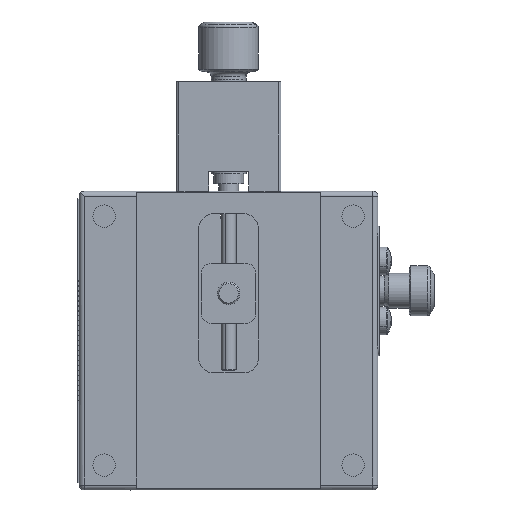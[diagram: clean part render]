
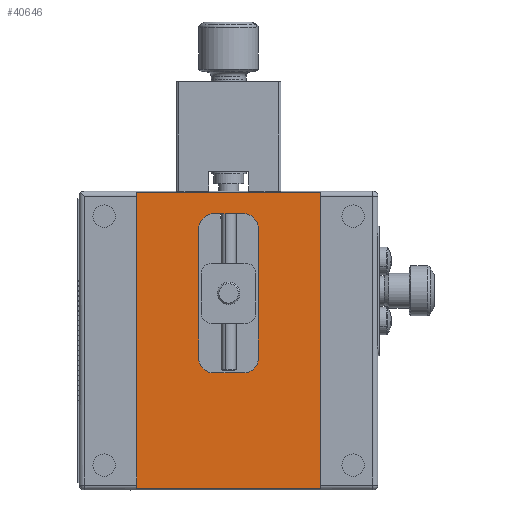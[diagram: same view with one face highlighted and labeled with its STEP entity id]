
A CAD part, front view. The second image highlights one B-rep face of the part: STEP entity #40646.
In plain terms, the highlighted planar face has unit normal (0, -1, 0).
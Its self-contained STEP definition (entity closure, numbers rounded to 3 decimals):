
#342 = CIRCLE ( 'NONE', #7325, 3. ) ;
#717 = CARTESIAN_POINT ( 'NONE',  ( 3., 0.3, 25.5 ) ) ;
#2132 = EDGE_CURVE ( 'NONE', #42089, #2435, #24652, .T. ) ;
#2435 = VERTEX_POINT ( 'NONE', #11047 ) ;
#2785 = CIRCLE ( 'NONE', #39567, 3. ) ;
#3401 = VERTEX_POINT ( 'NONE', #42655 ) ;
#7124 = CARTESIAN_POINT ( 'NONE',  ( -6., 0.3, 25.5 ) ) ;
#7202 = CARTESIAN_POINT ( 'NONE',  ( -18.5, 0.3, -29.714 ) ) ;
#7299 = VERTEX_POINT ( 'NONE', #40783 ) ;
#7325 = AXIS2_PLACEMENT_3D ( 'NONE', #19069, #49860, #23496 ) ;
#8035 = FACE_OUTER_BOUND ( 'NONE', #45988, .T. ) ;
#8214 = VECTOR ( 'NONE', #42401, 1000. ) ;
#8337 = DIRECTION ( 'NONE',  ( 0., 1., 0. ) ) ;
#8506 = CIRCLE ( 'NONE', #47588, 3. ) ;
#8952 = VECTOR ( 'NONE', #36361, 1000. ) ;
#10211 = EDGE_CURVE ( 'NONE', #28825, #38370, #20726, .T. ) ;
#10951 = EDGE_CURVE ( 'NONE', #20859, #39344, #17923, .T. ) ;
#11032 = CARTESIAN_POINT ( 'NONE',  ( -6., 0.3, -3.5 ) ) ;
#11047 = CARTESIAN_POINT ( 'NONE',  ( 6., 0.3, -3.5 ) ) ;
#11686 = DIRECTION ( 'NONE',  ( 1., 0., 0. ) ) ;
#12257 = DIRECTION ( 'NONE',  ( -1., 0., 0. ) ) ;
#12697 = DIRECTION ( 'NONE',  ( 0., 1., 0. ) ) ;
#13793 = CARTESIAN_POINT ( 'NONE',  ( -18.5, 0.3, -29.714 ) ) ;
#13976 = LINE ( 'NONE', #54299, #34624 ) ;
#14603 = CARTESIAN_POINT ( 'NONE',  ( 18.5, 0.3, 29.714 ) ) ;
#16588 = CARTESIAN_POINT ( 'NONE',  ( -6., 0.3, -6.5 ) ) ;
#17586 = DIRECTION ( 'NONE',  ( 0., 1., 0. ) ) ;
#17898 = AXIS2_PLACEMENT_3D ( 'NONE', #51700, #38619, #12257 ) ;
#17923 = LINE ( 'NONE', #18851, #8952 ) ;
#17931 = CARTESIAN_POINT ( 'NONE',  ( 18.5, 0.3, -30. ) ) ;
#18627 = CIRCLE ( 'NONE', #26128, 3. ) ;
#18851 = CARTESIAN_POINT ( 'NONE',  ( 18.5, 0.3, 29.714 ) ) ;
#18907 = CARTESIAN_POINT ( 'NONE',  ( -18.5, 0.3, -30. ) ) ;
#18994 = ORIENTED_EDGE ( 'NONE', *, *, #32771, .T. ) ;
#19069 = CARTESIAN_POINT ( 'NONE',  ( -3., 0.3, -3.5 ) ) ;
#19100 = DIRECTION ( 'NONE',  ( -1., 0., 0. ) ) ;
#19772 = FACE_BOUND ( 'NONE', #45732, .T. ) ;
#19814 = EDGE_CURVE ( 'NONE', #54489, #39290, #56922, .T. ) ;
#20726 = LINE ( 'NONE', #16588, #55830 ) ;
#20859 = VERTEX_POINT ( 'NONE', #14603 ) ;
#22291 = ORIENTED_EDGE ( 'NONE', *, *, #2132, .T. ) ;
#23496 = DIRECTION ( 'NONE',  ( -1., 0., 0. ) ) ;
#24652 = LINE ( 'NONE', #25693, #32194 ) ;
#25198 = ORIENTED_EDGE ( 'NONE', *, *, #10211, .T. ) ;
#25319 = ORIENTED_EDGE ( 'NONE', *, *, #49390, .F. ) ;
#25693 = CARTESIAN_POINT ( 'NONE',  ( 6., 0.3, 25.5 ) ) ;
#26128 = AXIS2_PLACEMENT_3D ( 'NONE', #34710, #8337, #39162 ) ;
#28825 = VERTEX_POINT ( 'NONE', #11032 ) ;
#28956 = ORIENTED_EDGE ( 'NONE', *, *, #34725, .T. ) ;
#30124 = DIRECTION ( 'NONE',  ( 0., 0., -1. ) ) ;
#30874 = CARTESIAN_POINT ( 'NONE',  ( -18.5, 0.3, 29.714 ) ) ;
#30918 = VECTOR ( 'NONE', #45272, 1000. ) ;
#32194 = VECTOR ( 'NONE', #30124, 1000. ) ;
#32616 = ORIENTED_EDGE ( 'NONE', *, *, #19814, .T. ) ;
#32771 = EDGE_CURVE ( 'NONE', #7299, #28825, #342, .T. ) ;
#33009 = VERTEX_POINT ( 'NONE', #56538 ) ;
#33495 = VECTOR ( 'NONE', #11686, 1000. ) ;
#34178 = PLANE ( 'NONE',  #17898 ) ;
#34397 = LINE ( 'NONE', #7124, #8214 ) ;
#34624 = VECTOR ( 'NONE', #19100, 1000. ) ;
#34710 = CARTESIAN_POINT ( 'NONE',  ( 3., 0.3, -3.5 ) ) ;
#34725 = EDGE_CURVE ( 'NONE', #3401, #7299, #13976, .T. ) ;
#34928 = CARTESIAN_POINT ( 'NONE',  ( 18.5, 0.3, -29.714 ) ) ;
#36361 = DIRECTION ( 'NONE',  ( -1., 0., 0. ) ) ;
#37281 = EDGE_CURVE ( 'NONE', #38370, #33009, #2785, .T. ) ;
#37330 = ORIENTED_EDGE ( 'NONE', *, *, #46168, .T. ) ;
#38370 = VERTEX_POINT ( 'NONE', #44098 ) ;
#38416 = EDGE_CURVE ( 'NONE', #39290, #20859, #43303, .T. ) ;
#38612 = ORIENTED_EDGE ( 'NONE', *, *, #46769, .T. ) ;
#38619 = DIRECTION ( 'NONE',  ( 0., 1., 0. ) ) ;
#39075 = CARTESIAN_POINT ( 'NONE',  ( -3., 0.3, 22.5 ) ) ;
#39162 = DIRECTION ( 'NONE',  ( -1., 0., 0. ) ) ;
#39290 = VERTEX_POINT ( 'NONE', #34928 ) ;
#39344 = VERTEX_POINT ( 'NONE', #30874 ) ;
#39567 = AXIS2_PLACEMENT_3D ( 'NONE', #39075, #12697, #43507 ) ;
#40346 = CARTESIAN_POINT ( 'NONE',  ( 6., 0.3, 22.5 ) ) ;
#40646 = ADVANCED_FACE ( 'NONE', ( #19772, #8035 ), #34178, .F. ) ;
#40783 = CARTESIAN_POINT ( 'NONE',  ( -3., 0.3, -6.5 ) ) ;
#42089 = VERTEX_POINT ( 'NONE', #40346 ) ;
#42401 = DIRECTION ( 'NONE',  ( 1., 0., 0. ) ) ;
#42655 = CARTESIAN_POINT ( 'NONE',  ( 3., 0.3, -6.5 ) ) ;
#42998 = DIRECTION ( 'NONE',  ( 0., 0., 1. ) ) ;
#43303 = LINE ( 'NONE', #17931, #54980 ) ;
#43507 = DIRECTION ( 'NONE',  ( -1., 0., 0. ) ) ;
#43956 = CARTESIAN_POINT ( 'NONE',  ( 3., 0.3, 22.5 ) ) ;
#44098 = CARTESIAN_POINT ( 'NONE',  ( -6., 0.3, 22.5 ) ) ;
#44295 = DIRECTION ( 'NONE',  ( 0., 0., 1. ) ) ;
#44841 = ORIENTED_EDGE ( 'NONE', *, *, #54844, .T. ) ;
#45272 = DIRECTION ( 'NONE',  ( 0., 0., 1. ) ) ;
#45732 = EDGE_LOOP ( 'NONE', ( #22291, #37330, #28956, #18994, #25198, #56054, #38612, #44841 ) ) ;
#45988 = EDGE_LOOP ( 'NONE', ( #25319, #32616, #46432, #56258 ) ) ;
#46168 = EDGE_CURVE ( 'NONE', #2435, #3401, #18627, .T. ) ;
#46432 = ORIENTED_EDGE ( 'NONE', *, *, #38416, .T. ) ;
#46769 = EDGE_CURVE ( 'NONE', #33009, #55470, #34397, .T. ) ;
#47588 = AXIS2_PLACEMENT_3D ( 'NONE', #43956, #17586, #48378 ) ;
#48378 = DIRECTION ( 'NONE',  ( -1., 0., 0. ) ) ;
#49390 = EDGE_CURVE ( 'NONE', #54489, #39344, #52969, .T. ) ;
#49860 = DIRECTION ( 'NONE',  ( 0., 1., 0. ) ) ;
#51700 = CARTESIAN_POINT ( 'NONE',  ( -18.5, 0.3, -30. ) ) ;
#52969 = LINE ( 'NONE', #18907, #30918 ) ;
#54299 = CARTESIAN_POINT ( 'NONE',  ( -6., 0.3, -6.5 ) ) ;
#54489 = VERTEX_POINT ( 'NONE', #13793 ) ;
#54844 = EDGE_CURVE ( 'NONE', #55470, #42089, #8506, .T. ) ;
#54980 = VECTOR ( 'NONE', #44295, 1000. ) ;
#55470 = VERTEX_POINT ( 'NONE', #717 ) ;
#55830 = VECTOR ( 'NONE', #42998, 1000. ) ;
#56054 = ORIENTED_EDGE ( 'NONE', *, *, #37281, .T. ) ;
#56258 = ORIENTED_EDGE ( 'NONE', *, *, #10951, .T. ) ;
#56538 = CARTESIAN_POINT ( 'NONE',  ( -3., 0.3, 25.5 ) ) ;
#56922 = LINE ( 'NONE', #7202, #33495 ) ;
